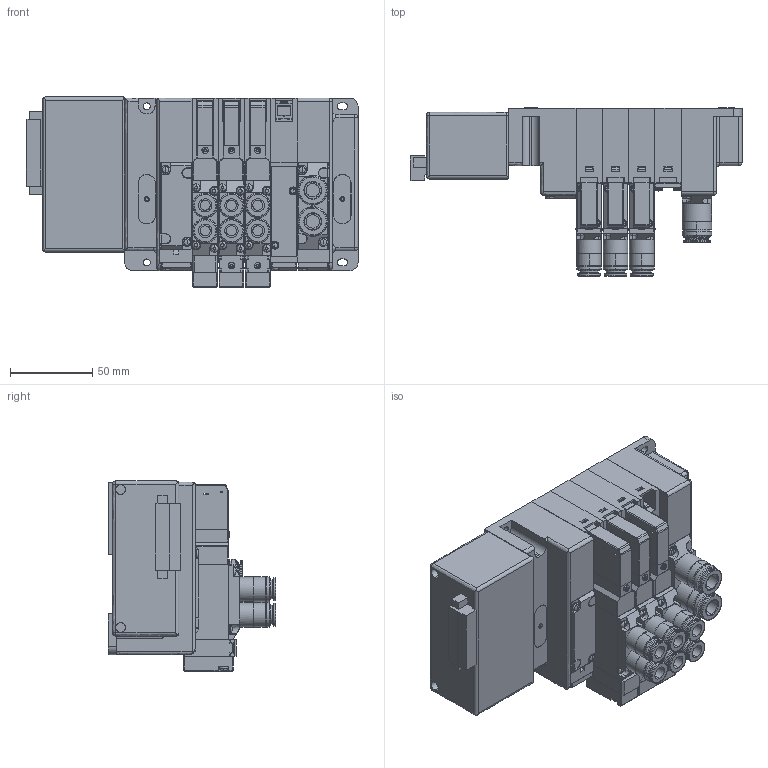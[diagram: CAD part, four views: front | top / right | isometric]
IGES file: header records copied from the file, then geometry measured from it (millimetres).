
Start section: ------------------------------------------------------------------------
Global section: file name: D:\ICADMX\tmp\trans3d_spg\CVICAD02.5220.F15M4XS-JR-B1_17089.igs; native system: spGate; preprocessor: ver12.6.6; author: Unknown; organization: Unknown; date: 210712.185031; units: millimetre
Bounding box: 202 x 102.1 x 115.69 mm (x, y, z)
Volume: 987905.2 mm3; surface area: 225260.8 mm2
Topology: 39 solids, 39 shells, 3161 faces, 8110 edges, 5196 vertices
Faces by surface type: bspline 3161
